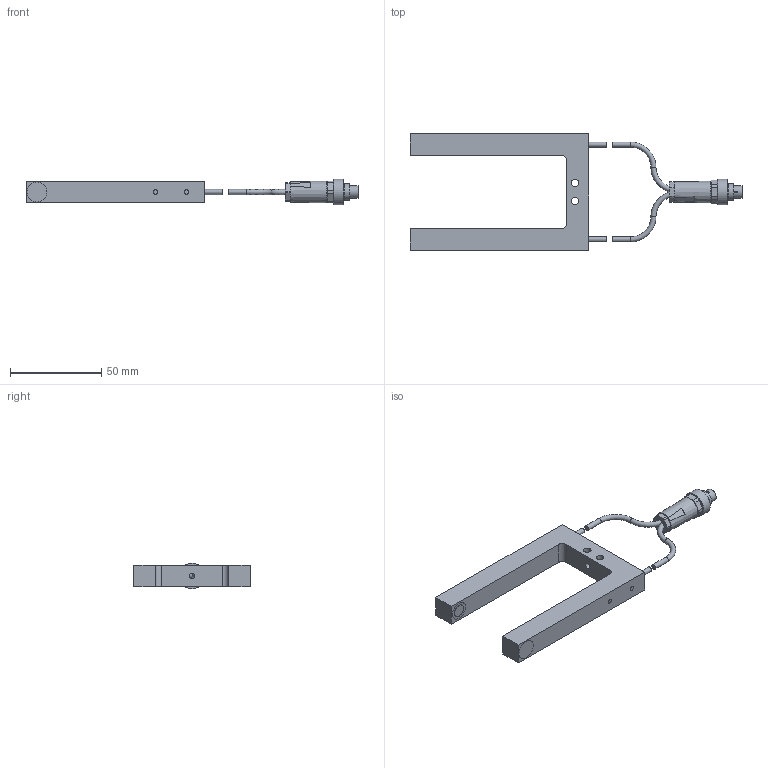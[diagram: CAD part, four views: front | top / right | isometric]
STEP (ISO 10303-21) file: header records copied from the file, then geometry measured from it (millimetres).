
FILE_DESCRIPTION(/* description */ (''),/* implementation_level */ '2;1');
FILE_NAME(/* name */ 'H:\ZVW\Inventor\E-Mail-Zeichnungen\STEP\HOMEPAGE\A-LAS-F12-...-40_80-C_0720_00.stp',/* time_stamp */ '2014-08-18T16:36:49+02:00',/* author */ ('TK-01'),/* organization */ (''),/* preprocessor_version */ 'ST-DEVELOPER v15.2',/* originating_system */ 'Autodesk Inventor 2014',/* authorisation */ '');
FILE_SCHEMA (('AUTOMOTIVE_DESIGN { 1 0 10303 214 3 1 1 }'));
Length unit declared in the file: millimetre
Products named in the file (1): Bauteil17
Bounding box: 182.1 x 64 x 14 mm (x, y, z)
Volume: 138816.6 mm3; surface area: 51682.5 mm2
Topology: 8 solids, 12 shells, 160 faces, 352 edges, 232 vertices
Faces by surface type: plane 72, cylinder 60, cone 11, sphere 9, torus 6, bspline 2
Full cylindrical faces by diameter (mm): 0.5 x7, 2.5 x8, 2.8 x4, 2.9 x2, 3.2 x1, 4.1 x2, 5.5 x1, 6 x1, 6.8 x1, 7.1 x1, 7.15 x2, 7.5 x1, 8 x1, 9 x2, 10 x2, 14 x1
Entity records: 4357 total; most frequent: CARTESIAN_POINT 927, DIRECTION 708, ORIENTED_EDGE 544, AXIS2_PLACEMENT_3D 310, EDGE_CURVE 268, EDGE_LOOP 250, VERTEX_POINT 204, ADVANCED_FACE 160
